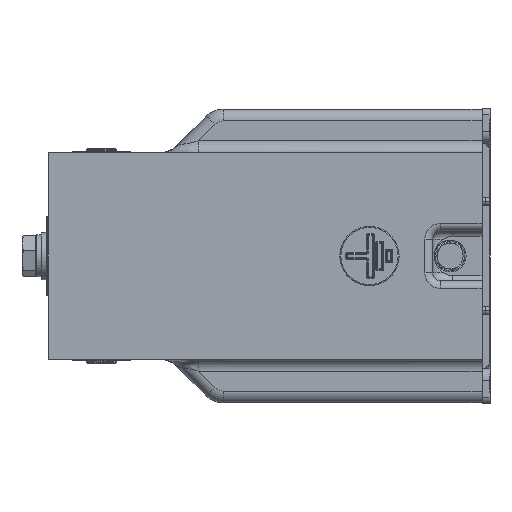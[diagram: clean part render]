
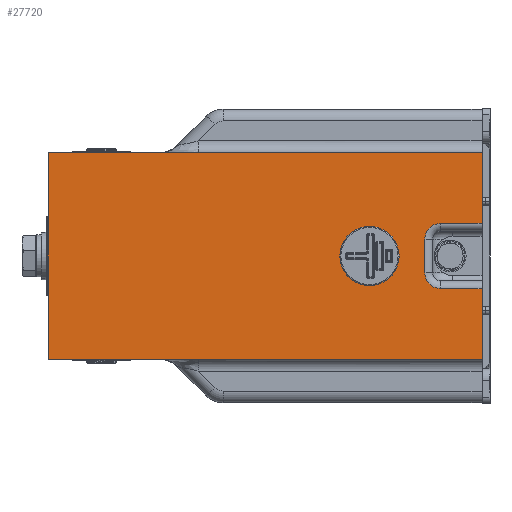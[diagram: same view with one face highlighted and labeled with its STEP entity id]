
A CAD part, left-side view. The second image highlights one B-rep face of the part: STEP entity #27720.
In plain terms, the highlighted planar face has unit normal (-1, 0, 0).
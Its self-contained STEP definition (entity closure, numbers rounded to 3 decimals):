
#762 = EDGE_CURVE ( 'NONE', #44205, #24067, #48990, .T. ) ;
#2525 = ORIENTED_EDGE ( 'NONE', *, *, #762, .T. ) ;
#2884 = CARTESIAN_POINT ( 'NONE',  ( -201.164, -60.362, 14.88 ) ) ;
#2949 = LINE ( 'NONE', #80374, #68700 ) ;
#3738 = ORIENTED_EDGE ( 'NONE', *, *, #47865, .T. ) ;
#4493 = AXIS2_PLACEMENT_3D ( 'NONE', #33715, #18457, #64193 ) ;
#6770 = DIRECTION ( 'NONE',  ( 1., 0., 0. ) ) ;
#7257 = FACE_BOUND ( 'NONE', #40967, .T. ) ;
#7864 = CARTESIAN_POINT ( 'NONE',  ( -201.164, -146.666, 51.832 ) ) ;
#8121 = VERTEX_POINT ( 'NONE', #16607 ) ;
#8731 = PLANE ( 'NONE',  #94452 ) ;
#9324 = CARTESIAN_POINT ( 'NONE',  ( -201.164, -96.074, -8.432 ) ) ;
#9756 = DIRECTION ( 'NONE',  ( 0., 0., 1. ) ) ;
#12424 = CARTESIAN_POINT ( 'NONE',  ( -201.164, -116.906, 16.368 ) ) ;
#14675 = CARTESIAN_POINT ( 'NONE',  ( -201.164, -116.906, 51.832 ) ) ;
#16168 = VECTOR ( 'NONE', #9756, 1000. ) ;
#16607 = CARTESIAN_POINT ( 'NONE',  ( -201.164, -116.906, 16.368 ) ) ;
#18457 = DIRECTION ( 'NONE',  ( 1., 0., 0. ) ) ;
#19964 = LINE ( 'NONE', #7864, #23493 ) ;
#20292 = CARTESIAN_POINT ( 'NONE',  ( -201.164, -96.074, -16.368 ) ) ;
#21428 = CIRCLE ( 'NONE', #46186, 7.936 ) ;
#21831 = CARTESIAN_POINT ( 'NONE',  ( -201.164, -60.362, -14.88 ) ) ;
#22296 = ORIENTED_EDGE ( 'NONE', *, *, #74887, .T. ) ;
#22774 = FACE_OUTER_BOUND ( 'NONE', #38429, .T. ) ;
#23493 = VECTOR ( 'NONE', #25201, 1000. ) ;
#23920 = DIRECTION ( 'NONE',  ( 0., 1., 0. ) ) ;
#24067 = VERTEX_POINT ( 'NONE', #52293 ) ;
#25201 = DIRECTION ( 'NONE',  ( 0., 1., 0. ) ) ;
#26444 = ORIENTED_EDGE ( 'NONE', *, *, #32639, .F. ) ;
#27720 = ADVANCED_FACE ( 'NONE', ( #22774, #7257 ), #8731, .T. ) ;
#28022 = ORIENTED_EDGE ( 'NONE', *, *, #65601, .T. ) ;
#28928 = DIRECTION ( 'NONE',  ( 1., 0., 0. ) ) ;
#29155 = ORIENTED_EDGE ( 'NONE', *, *, #85311, .F. ) ;
#30729 = AXIS2_PLACEMENT_3D ( 'NONE', #9324, #62137, #62795 ) ;
#31715 = CARTESIAN_POINT ( 'NONE',  ( -201.164, -146.666, -51.832 ) ) ;
#31868 = CARTESIAN_POINT ( 'NONE',  ( -201.164, -88.138, 8.432 ) ) ;
#32493 = EDGE_CURVE ( 'NONE', #62960, #45148, #53147, .T. ) ;
#32639 = EDGE_CURVE ( 'NONE', #68844, #98662, #2949, .T. ) ;
#33715 = CARTESIAN_POINT ( 'NONE',  ( -201.164, -60.362, 0. ) ) ;
#34821 = LINE ( 'NONE', #89492, #38399 ) ;
#35003 = VECTOR ( 'NONE', #90129, 1000. ) ;
#37356 = CIRCLE ( 'NONE', #30729, 7.936 ) ;
#38399 = VECTOR ( 'NONE', #81132, 1000. ) ;
#38409 = VERTEX_POINT ( 'NONE', #72546 ) ;
#38429 = EDGE_LOOP ( 'NONE', ( #50135, #3738, #2525, #29155, #67271, #26444, #58421, #45379, #28022, #68351 ) ) ;
#38683 = CARTESIAN_POINT ( 'NONE',  ( -201.164, -96.074, 16.368 ) ) ;
#40967 = EDGE_LOOP ( 'NONE', ( #22296, #84622 ) ) ;
#41025 = LINE ( 'NONE', #65283, #58978 ) ;
#43247 = DIRECTION ( 'NONE',  ( 0., 0., -1. ) ) ;
#44205 = VERTEX_POINT ( 'NONE', #76262 ) ;
#44842 = CARTESIAN_POINT ( 'NONE',  ( -201.164, -60.362, 0. ) ) ;
#45148 = VERTEX_POINT ( 'NONE', #21831 ) ;
#45379 = ORIENTED_EDGE ( 'NONE', *, *, #64011, .F. ) ;
#46186 = AXIS2_PLACEMENT_3D ( 'NONE', #59405, #28928, #67055 ) ;
#47865 = EDGE_CURVE ( 'NONE', #75083, #44205, #19964, .T. ) ;
#48990 = LINE ( 'NONE', #98017, #66917 ) ;
#49453 = EDGE_CURVE ( 'NONE', #38409, #98662, #92597, .T. ) ;
#50135 = ORIENTED_EDGE ( 'NONE', *, *, #85518, .T. ) ;
#51829 = VECTOR ( 'NONE', #23920, 1000. ) ;
#52293 = CARTESIAN_POINT ( 'NONE',  ( -201.164, 101.076, -51.832 ) ) ;
#52316 = VERTEX_POINT ( 'NONE', #31868 ) ;
#52523 = DIRECTION ( 'NONE',  ( 0., 0., -1. ) ) ;
#52816 = VERTEX_POINT ( 'NONE', #38683 ) ;
#53147 = CIRCLE ( 'NONE', #62168, 14.88 ) ;
#58421 = ORIENTED_EDGE ( 'NONE', *, *, #86045, .T. ) ;
#58978 = VECTOR ( 'NONE', #80604, 1000. ) ;
#59405 = CARTESIAN_POINT ( 'NONE',  ( -201.164, -96.074, 8.432 ) ) ;
#60190 = LINE ( 'NONE', #12424, #35003 ) ;
#62137 = DIRECTION ( 'NONE',  ( 1., 0., 0. ) ) ;
#62168 = AXIS2_PLACEMENT_3D ( 'NONE', #44842, #6770, #52523 ) ;
#62795 = DIRECTION ( 'NONE',  ( 0., 0., -1. ) ) ;
#62960 = VERTEX_POINT ( 'NONE', #2884 ) ;
#63092 = CARTESIAN_POINT ( 'NONE',  ( -201.164, -88.138, -8.432 ) ) ;
#64011 = EDGE_CURVE ( 'NONE', #52316, #75421, #34821, .T. ) ;
#64193 = DIRECTION ( 'NONE',  ( 0., 0., -1. ) ) ;
#65283 = CARTESIAN_POINT ( 'NONE',  ( -201.164, -116.906, -51.832 ) ) ;
#65601 = EDGE_CURVE ( 'NONE', #52316, #52816, #21428, .T. ) ;
#66917 = VECTOR ( 'NONE', #43247, 1000. ) ;
#67055 = DIRECTION ( 'NONE',  ( 0., 0., -1. ) ) ;
#67271 = ORIENTED_EDGE ( 'NONE', *, *, #49453, .T. ) ;
#68351 = ORIENTED_EDGE ( 'NONE', *, *, #80476, .F. ) ;
#68700 = VECTOR ( 'NONE', #73082, 1000. ) ;
#68844 = VERTEX_POINT ( 'NONE', #20292 ) ;
#69716 = CARTESIAN_POINT ( 'NONE',  ( -201.164, -146.666, -51.832 ) ) ;
#70553 = DIRECTION ( 'NONE',  ( 0., 0., -1. ) ) ;
#72546 = CARTESIAN_POINT ( 'NONE',  ( -201.164, -116.906, -51.832 ) ) ;
#73082 = DIRECTION ( 'NONE',  ( 0., -1., 0. ) ) ;
#74887 = EDGE_CURVE ( 'NONE', #45148, #62960, #98114, .T. ) ;
#75083 = VERTEX_POINT ( 'NONE', #14675 ) ;
#75421 = VERTEX_POINT ( 'NONE', #63092 ) ;
#76262 = CARTESIAN_POINT ( 'NONE',  ( -201.164, 101.076, 51.832 ) ) ;
#76975 = LINE ( 'NONE', #69716, #51829 ) ;
#78848 = DIRECTION ( 'NONE',  ( -1., 0., 0. ) ) ;
#80374 = CARTESIAN_POINT ( 'NONE',  ( -201.164, -116.906, -16.368 ) ) ;
#80476 = EDGE_CURVE ( 'NONE', #8121, #52816, #60190, .T. ) ;
#80604 = DIRECTION ( 'NONE',  ( 0., 0., 1. ) ) ;
#81132 = DIRECTION ( 'NONE',  ( 0., 0., -1. ) ) ;
#84622 = ORIENTED_EDGE ( 'NONE', *, *, #32493, .T. ) ;
#85311 = EDGE_CURVE ( 'NONE', #38409, #24067, #76975, .T. ) ;
#85367 = CARTESIAN_POINT ( 'NONE',  ( -201.164, -116.906, -16.368 ) ) ;
#85518 = EDGE_CURVE ( 'NONE', #8121, #75083, #41025, .T. ) ;
#85519 = CARTESIAN_POINT ( 'NONE',  ( -201.164, -116.906, -51.832 ) ) ;
#86045 = EDGE_CURVE ( 'NONE', #68844, #75421, #37356, .T. ) ;
#89492 = CARTESIAN_POINT ( 'NONE',  ( -201.164, -88.138, -12.4 ) ) ;
#90129 = DIRECTION ( 'NONE',  ( 0., 1., 0. ) ) ;
#92597 = LINE ( 'NONE', #85519, #16168 ) ;
#94452 = AXIS2_PLACEMENT_3D ( 'NONE', #31715, #78848, #70553 ) ;
#98017 = CARTESIAN_POINT ( 'NONE',  ( -201.164, 101.076, 51.832 ) ) ;
#98114 = CIRCLE ( 'NONE', #4493, 14.88 ) ;
#98662 = VERTEX_POINT ( 'NONE', #85367 ) ;
